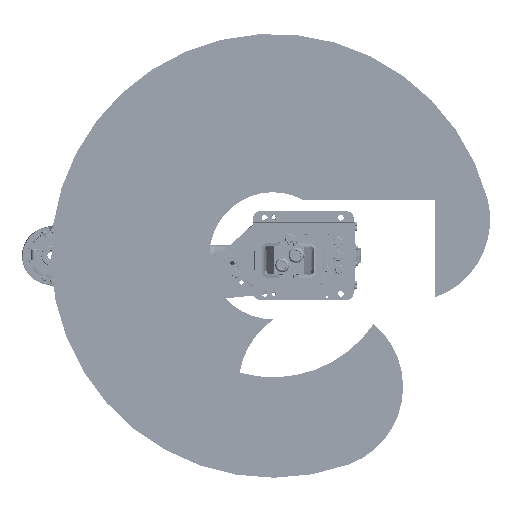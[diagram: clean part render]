
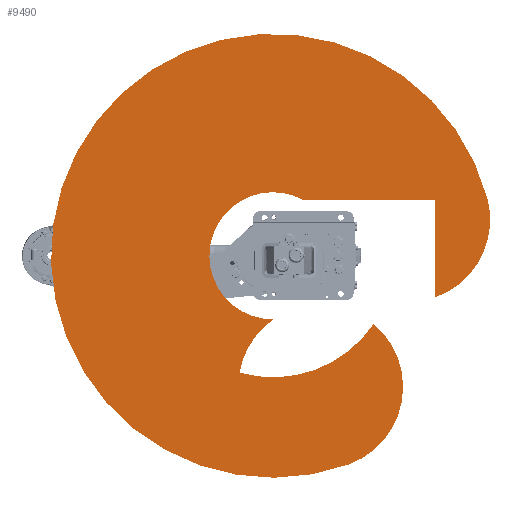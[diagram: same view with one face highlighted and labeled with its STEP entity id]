
A CAD part, front view. The second image highlights one B-rep face of the part: STEP entity #9490.
In plain terms, the highlighted planar face has unit normal (0, -1, 0).
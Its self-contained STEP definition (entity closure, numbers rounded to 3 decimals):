
#9490 = ADVANCED_FACE( '', ( #21620 ), #21621, .F. );
#21620 = FACE_OUTER_BOUND( '', #36851, .T. );
#21621 = PLANE( '', #36852 );
#36851 = EDGE_LOOP( '', ( #64500, #64501, #64502, #64503, #64504, #64505, #64506, #64507 ) );
#36852 = AXIS2_PLACEMENT_3D( '', #64508, #64509, #64510 );
#64500 = ORIENTED_EDGE( '', *, *, #83161, .T. );
#64501 = ORIENTED_EDGE( '', *, *, #89265, .F. );
#64502 = ORIENTED_EDGE( '', *, *, #82586, .F. );
#64503 = ORIENTED_EDGE( '', *, *, #89266, .F. );
#64504 = ORIENTED_EDGE( '', *, *, #89267, .T. );
#64505 = ORIENTED_EDGE( '', *, *, #84349, .T. );
#64506 = ORIENTED_EDGE( '', *, *, #89268, .T. );
#64507 = ORIENTED_EDGE( '', *, *, #89269, .T. );
#64508 = CARTESIAN_POINT( '', ( 103.366, 0., 37.622 ) );
#64509 = DIRECTION( '', ( 0., 1., 0. ) );
#64510 = DIRECTION( '', ( 0., 0., 1. ) );
#82586 = EDGE_CURVE( '', #98955, #98956, #98957, .T. );
#83161 = EDGE_CURVE( '', #99896, #99894, #99897, .T. );
#84349 = EDGE_CURVE( '', #101785, #101786, #101787, .T. );
#89265 = EDGE_CURVE( '', #98956, #99894, #108944, .T. );
#89266 = EDGE_CURVE( '', #108945, #98955, #108946, .T. );
#89267 = EDGE_CURVE( '', #108945, #101785, #108947, .T. );
#89268 = EDGE_CURVE( '', #101786, #108948, #108949, .T. );
#89269 = EDGE_CURVE( '', #108948, #99896, #108950, .T. );
#98955 = VERTEX_POINT( '', #123416 );
#98956 = VERTEX_POINT( '', #123417 );
#98957 = CIRCLE( '', #123418, 350. );
#99894 = VERTEX_POINT( '', #124828 );
#99896 = VERTEX_POINT( '', #124831 );
#99897 = LINE( '', #124832, #124833 );
#101785 = VERTEX_POINT( '', #127883 );
#101786 = VERTEX_POINT( '', #127884 );
#101787 = CIRCLE( '', #127885, 130. );
#108944 = CIRCLE( '', #140141, 130. );
#108945 = VERTEX_POINT( '', #140142 );
#108946 = CIRCLE( '', #140143, 130. );
#108947 = CIRCLE( '', #140144, 191.57 );
#108948 = VERTEX_POINT( '', #140145 );
#108949 = CIRCLE( '', #140146, 100.24 );
#108950 = LINE( '', #140147, #140148 );
#123416 = CARTESIAN_POINT( '', ( 328.892, 0., 119.707 ) );
#123417 = CARTESIAN_POINT( '', ( -90.587, 0., 338.074 ) );
#123418 = AXIS2_PLACEMENT_3D( '', #150526, #150527, #150528 );
#124828 = CARTESIAN_POINT( '', ( 65.918, 0., 255. ) );
#124831 = CARTESIAN_POINT( '', ( -88., 0., 255. ) );
#124832 = CARTESIAN_POINT( '', ( -88., 0., 255. ) );
#124833 = VECTOR( '', #151191, 1000. );
#127883 = CARTESIAN_POINT( '', ( 184.156, 0., -52.78 ) );
#127884 = CARTESIAN_POINT( '', ( 100.238, 0., 0.687 ) );
#127885 = AXIS2_PLACEMENT_3D( '', #152559, #152560, #152561 );
#140141 = AXIS2_PLACEMENT_3D( '', #157748, #157749, #157750 );
#140142 = CARTESIAN_POINT( '', ( 107.145, 0., 158.805 ) );
#140143 = AXIS2_PLACEMENT_3D( '', #157751, #157752, #157753 );
#140144 = AXIS2_PLACEMENT_3D( '', #157754, #157755, #157756 );
#140145 = CARTESIAN_POINT( '', ( -88., 0., 48.001 ) );
#140146 = AXIS2_PLACEMENT_3D( '', #157757, #157758, #157759 );
#140147 = CARTESIAN_POINT( '', ( -88., 0., 48.001 ) );
#140148 = VECTOR( '', #157760, 1000. );
#150526 = CARTESIAN_POINT( '', ( 0., 0., 0. ) );
#150527 = DIRECTION( '', ( 0., 1., 0. ) );
#150528 = DIRECTION( '', ( 1., 0., 0. ) );
#151191 = DIRECTION( '', ( 1., 0., 0. ) );
#152559 = CARTESIAN_POINT( '', ( 206.732, 0., 75.244 ) );
#152560 = DIRECTION( '', ( 0., 1., 0. ) );
#152561 = DIRECTION( '', ( 1., 0., 0. ) );
#157748 = CARTESIAN_POINT( '', ( -56.94, 0., 212.504 ) );
#157749 = DIRECTION( '', ( 0., 1., 0. ) );
#157750 = DIRECTION( '', ( 1., 0., 0. ) );
#157751 = CARTESIAN_POINT( '', ( 206.732, 0., 75.244 ) );
#157752 = DIRECTION( '', ( 0., 1., 0. ) );
#157753 = DIRECTION( '', ( 1., 0., 0. ) );
#157754 = CARTESIAN_POINT( '', ( 0., 0., 0. ) );
#157755 = DIRECTION( '', ( 0., 1., 0. ) );
#157756 = DIRECTION( '', ( 1., 0., 0. ) );
#157757 = CARTESIAN_POINT( '', ( 0., 0., 0. ) );
#157758 = DIRECTION( '', ( 0., 1., 0. ) );
#157759 = DIRECTION( '', ( 1., 0., 0. ) );
#157760 = DIRECTION( '', ( 0., 0., 1. ) );
